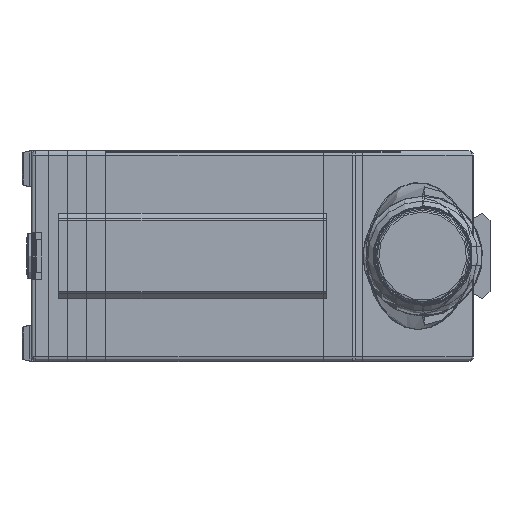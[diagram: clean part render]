
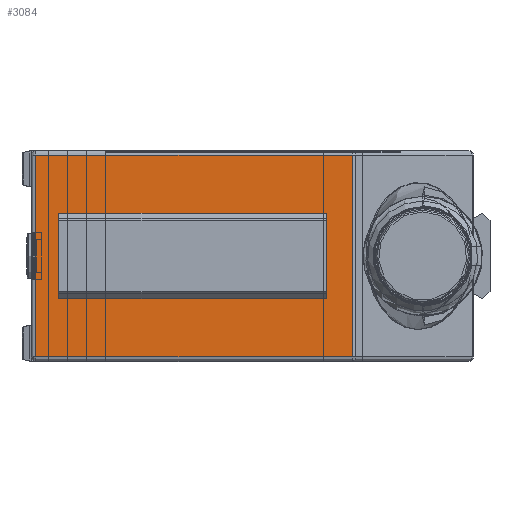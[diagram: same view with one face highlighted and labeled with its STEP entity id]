
A CAD part, left-side view. The second image highlights one B-rep face of the part: STEP entity #3084.
In plain terms, the highlighted planar face has unit normal (-1, 0, 0).
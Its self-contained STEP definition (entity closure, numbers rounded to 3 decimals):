
#145=PLANE('',#3394);
#187=FACE_BOUND('',#557,.T.);
#358=FACE_OUTER_BOUND('',#556,.T.);
#556=EDGE_LOOP('',(#2510,#2511,#2512,#2513));
#557=EDGE_LOOP('',(#2514,#2515,#2516,#2517));
#654=LINE('',#4790,#899);
#784=LINE('',#5486,#1029);
#790=LINE('',#5497,#1035);
#808=LINE('',#5535,#1053);
#815=LINE('',#5548,#1060);
#816=LINE('',#5563,#1061);
#817=LINE('',#5565,#1062);
#818=LINE('',#5566,#1063);
#899=VECTOR('',#3656,10.);
#1029=VECTOR('',#4070,10.);
#1035=VECTOR('',#4078,10.);
#1053=VECTOR('',#4108,10.);
#1060=VECTOR('',#4123,10.);
#1061=VECTOR('',#4142,10.);
#1062=VECTOR('',#4143,10.);
#1063=VECTOR('',#4144,10.);
#1288=VERTEX_POINT('',#4788);
#1289=VERTEX_POINT('',#4789);
#1423=VERTEX_POINT('',#5483);
#1424=VERTEX_POINT('',#5485);
#1427=VERTEX_POINT('',#5493);
#1442=VERTEX_POINT('',#5533);
#1449=VERTEX_POINT('',#5562);
#1450=VERTEX_POINT('',#5564);
#1572=EDGE_CURVE('',#1288,#1289,#654,.T.);
#1784=EDGE_CURVE('',#1424,#1423,#784,.T.);
#1790=EDGE_CURVE('',#1427,#1424,#790,.T.);
#1808=EDGE_CURVE('',#1423,#1442,#808,.T.);
#1815=EDGE_CURVE('',#1427,#1442,#815,.T.);
#1822=EDGE_CURVE('',#1449,#1288,#816,.T.);
#1823=EDGE_CURVE('',#1450,#1449,#817,.T.);
#1824=EDGE_CURVE('',#1289,#1450,#818,.T.);
#2510=ORIENTED_EDGE('',*,*,#1572,.F.);
#2511=ORIENTED_EDGE('',*,*,#1822,.F.);
#2512=ORIENTED_EDGE('',*,*,#1823,.F.);
#2513=ORIENTED_EDGE('',*,*,#1824,.F.);
#2514=ORIENTED_EDGE('',*,*,#1790,.T.);
#2515=ORIENTED_EDGE('',*,*,#1784,.T.);
#2516=ORIENTED_EDGE('',*,*,#1808,.T.);
#2517=ORIENTED_EDGE('',*,*,#1815,.F.);
#3084=ADVANCED_FACE('',(#358,#187),#145,.T.);
#3394=AXIS2_PLACEMENT_3D('',#5561,#4140,#4141);
#3656=DIRECTION('',(0.,0.,-1.));
#4070=DIRECTION('',(0.,0.,-1.));
#4078=DIRECTION('',(0.,-1.,0.));
#4108=DIRECTION('',(0.,1.,0.));
#4123=DIRECTION('',(0.,0.,-1.));
#4140=DIRECTION('center_axis',(-1.,0.,0.));
#4141=DIRECTION('ref_axis',(0.,0.,1.));
#4142=DIRECTION('',(0.,-1.,0.));
#4143=DIRECTION('',(0.,0.,1.));
#4144=DIRECTION('',(0.,1.,0.));
#4788=CARTESIAN_POINT('',(-42.3,13.207,11.));
#4789=CARTESIAN_POINT('',(-42.3,13.207,-11.));
#4790=CARTESIAN_POINT('',(-42.3,13.207,11.5));
#5483=CARTESIAN_POINT('',(-42.3,16.,-4.1));
#5485=CARTESIAN_POINT('',(-42.3,16.,4.1));
#5486=CARTESIAN_POINT('',(-42.3,16.,5.75));
#5493=CARTESIAN_POINT('',(-42.3,45.2,4.1));
#5497=CARTESIAN_POINT('',(-42.3,48.2,4.1));
#5533=CARTESIAN_POINT('',(-42.3,45.2,-4.1));
#5535=CARTESIAN_POINT('',(-42.3,48.2,-4.1));
#5548=CARTESIAN_POINT('',(-42.3,45.2,11.5));
#5561=CARTESIAN_POINT('Origin',(-42.3,48.2,11.5));
#5562=CARTESIAN_POINT('',(-42.3,47.7,11.));
#5563=CARTESIAN_POINT('',(-42.3,36.78,11.));
#5564=CARTESIAN_POINT('',(-42.3,47.7,-11.));
#5565=CARTESIAN_POINT('',(-42.3,47.7,11.5));
#5566=CARTESIAN_POINT('',(-42.3,36.78,-11.));
